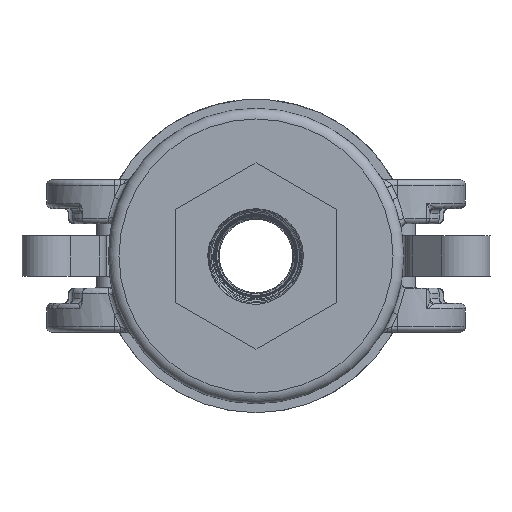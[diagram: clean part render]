
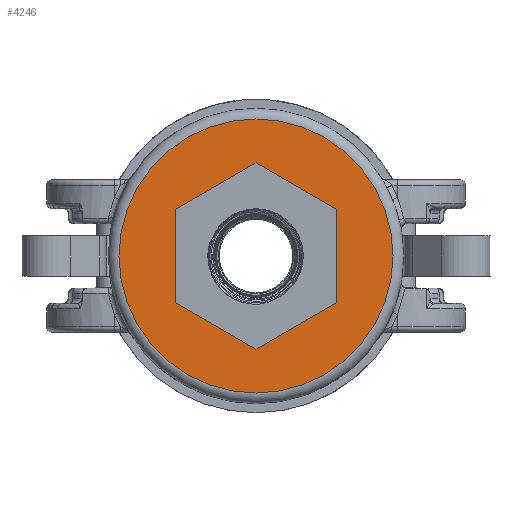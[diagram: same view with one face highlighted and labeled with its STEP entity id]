
A CAD part, left-side view. The second image highlights one B-rep face of the part: STEP entity #4246.
In plain terms, the highlighted planar face has unit normal (-1, 0, 0).
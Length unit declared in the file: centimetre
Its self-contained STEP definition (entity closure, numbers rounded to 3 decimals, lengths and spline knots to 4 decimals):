
#351=VECTOR('',#4938,1.);
#355=VECTOR('',#4943,1.);
#358=VECTOR('',#4947,1.);
#361=VECTOR('',#4951,1.);
#364=VECTOR('',#4955,1.);
#366=VECTOR('',#4958,1.);
#526=LINE('',#23650,#351);
#530=LINE('',#23658,#355);
#533=LINE('',#23664,#358);
#536=LINE('',#23670,#361);
#539=LINE('',#23676,#364);
#541=LINE('',#23679,#366);
#1379=VERTEX_POINT('',#23649);
#1380=VERTEX_POINT('',#23651);
#1382=VERTEX_POINT('',#23657);
#1384=VERTEX_POINT('',#23663);
#1386=VERTEX_POINT('',#23669);
#1388=VERTEX_POINT('',#23675);
#1560=VERTEX_POINT('',#27414);
#1760=CIRCLE('',#4572,1.9431);
#1988=EDGE_CURVE('',#1380,#1379,#526,.T.);
#1992=EDGE_CURVE('',#1379,#1382,#530,.T.);
#1995=EDGE_CURVE('',#1382,#1384,#533,.T.);
#1998=EDGE_CURVE('',#1384,#1386,#536,.T.);
#2001=EDGE_CURVE('',#1386,#1388,#539,.T.);
#2003=EDGE_CURVE('',#1388,#1380,#541,.T.);
#2247=EDGE_CURVE('',#1560,#1560,#1760,.T.);
#3156=ORIENTED_EDGE('',*,*,#1988,.T.);
#3157=ORIENTED_EDGE('',*,*,#1992,.T.);
#3158=ORIENTED_EDGE('',*,*,#1995,.T.);
#3159=ORIENTED_EDGE('',*,*,#1998,.T.);
#3160=ORIENTED_EDGE('',*,*,#2001,.T.);
#3161=ORIENTED_EDGE('',*,*,#2003,.T.);
#3162=ORIENTED_EDGE('',*,*,#2247,.F.);
#3721=EDGE_LOOP('',(#3156,#3157,#3158,#3159,#3160,#3161));
#3722=EDGE_LOOP('',(#3162));
#4002=FACE_BOUND('',#3721,.T.);
#4003=FACE_BOUND('',#3722,.T.);
#4246=ADVANCED_FACE('',(#4002,#4003),#30074,.F.);
#4572=AXIS2_PLACEMENT_3D('',#27413,#5277,#5278);
#4573=AXIS2_PLACEMENT_3D('',#27415,#5279,$);
#4938=DIRECTION('',(0.,0.,1.));
#4943=DIRECTION('',(0.,-0.866,0.5));
#4947=DIRECTION('',(0.,-0.866,-0.5));
#4951=DIRECTION('',(0.,0.,-1.));
#4955=DIRECTION('',(0.,0.866,-0.5));
#4958=DIRECTION('',(0.,0.866,0.5));
#5277=DIRECTION('',(1.,0.,0.));
#5278=DIRECTION('',(0.,0.,1.943));
#5279=DIRECTION('',(1.,0.,0.));
#23649=CARTESIAN_POINT('',(-3.3782,1.143,0.6599));
#23650=CARTESIAN_POINT('',(-3.3782,1.143,0.));
#23651=CARTESIAN_POINT('',(-3.3782,1.143,-0.6599));
#23657=CARTESIAN_POINT('',(-3.3782,0.,1.3198));
#23658=CARTESIAN_POINT('',(-3.3782,0.5715,0.9899));
#23663=CARTESIAN_POINT('',(-3.3782,-1.143,0.6599));
#23664=CARTESIAN_POINT('',(-3.3782,-0.5715,0.9899));
#23669=CARTESIAN_POINT('',(-3.3782,-1.143,-0.6599));
#23670=CARTESIAN_POINT('',(-3.3782,-1.143,0.));
#23675=CARTESIAN_POINT('',(-3.3782,0.,-1.3198));
#23676=CARTESIAN_POINT('',(-3.3782,-0.5715,-0.9899));
#23679=CARTESIAN_POINT('',(-3.3782,0.5715,-0.9899));
#27413=CARTESIAN_POINT('',(-3.3782,0.,0.));
#27414=CARTESIAN_POINT('',(-3.3782,0.,-1.9431));
#27415=CARTESIAN_POINT('',(-3.3782,0.,0.));
#30074=PLANE('',#4573);
